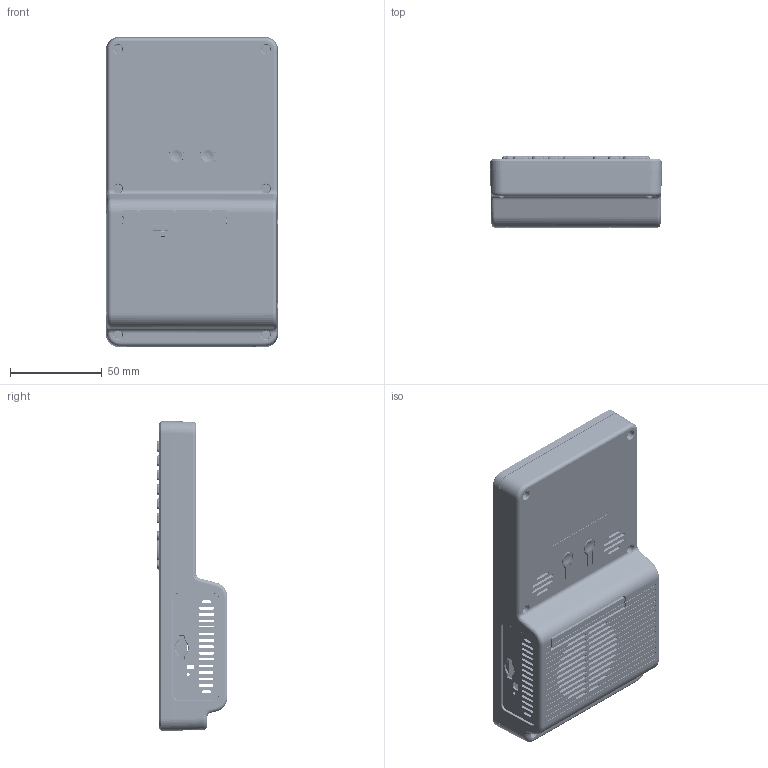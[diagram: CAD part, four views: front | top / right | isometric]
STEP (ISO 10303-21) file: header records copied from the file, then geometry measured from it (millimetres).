
FILE_DESCRIPTION((''),'2;1');
FILE_NAME('POCKETTERM35_ASM-20260629_ASM_1_ASM','2026-06-29T16:07:23',('xiaojisheng'),(''),'CREO PARAMETRIC BY PTC INC, 2021063','CREO PARAMETRIC BY PTC INC, 2021063','');
FILE_SCHEMA(('CONFIG_CONTROL_DESIGN','SHAPE_APPEARANCE_LAYERS_GROUPS'));
Products named in the file (30): POCKETTERM35_PANEL_1; GAMEPI35-MAIN-PCB_8; SMTSO-M2_5-4ET_1; RPI_HANDHELD_PC-PCBA_1_1; RPI_HANDHELD_PC-PCBA_1_2; RPI_HANDHELD_PC-PCBA_1_3; RPI_HANDHELD_PC-PCBA_1_4; RPI_HANDHELD_PC-PCBA_1_5; RPI_HANDHELD_PC-PCBA_1_6; RPI_HANDHELD_PC-PCBA_1_7; RPI_HANDHELD_PC-PCBA_1_8; RPI_HANDHELD_PC-PCBA_1_9; RPI_HANDHELD_PC-PCBA_1_10; RPI_HANDHELD_PC-PCBA_1_11; RPI_HANDHELD_PC-PCBA_1_12; RPI_HANDHELD_PC-PCBA_1_13; RPI_HANDHELD_PC-PCBA_1_14; RPI_HANDHELD_PC-PCBA_1_16; RPI_HANDHELD_PC-PCBA_1_ASM; 6X3_2XH300_2; HP2_0-2PIN-SMT-HORIZONTAL_1; 0_5MM-10PIN-F_SMT_1; GAMEPI35-MAIN-PCBA_ASM_9_ASM; POCKETTERM35-KEYBOARD_1_3; POCKETTERM35-KEYBOARD_1_1; SW-DTSM-63N-V-6X6X10MM_1; GAMEPI35-PCBA00_ASM_13_ASM; GAMEPI35-BACK_SHELL_70; GAMEPI35-BAFFLE_PI5_28; POCKETTERM35_ASM-20260629_ASM_1_ASM
Assembly tree (38 placements, depth 4):
  POCKETTERM35_ASM-20260629_ASM_1_ASM
    POCKETTERM35_PANEL_1
    GAMEPI35-MAIN-PCBA_ASM_9_ASM
      GAMEPI35-MAIN-PCB_8
      SMTSO-M2_5-4ET_1  x4
      RPI_HANDHELD_PC-PCBA_1_ASM
        RPI_HANDHELD_PC-PCBA_1_1
        RPI_HANDHELD_PC-PCBA_1_2
        RPI_HANDHELD_PC-PCBA_1_3
        RPI_HANDHELD_PC-PCBA_1_4
        RPI_HANDHELD_PC-PCBA_1_5
        RPI_HANDHELD_PC-PCBA_1_6
        RPI_HANDHELD_PC-PCBA_1_7
        RPI_HANDHELD_PC-PCBA_1_8
        RPI_HANDHELD_PC-PCBA_1_9
        RPI_HANDHELD_PC-PCBA_1_10
        RPI_HANDHELD_PC-PCBA_1_11
        RPI_HANDHELD_PC-PCBA_1_12
        RPI_HANDHELD_PC-PCBA_1_13
        RPI_HANDHELD_PC-PCBA_1_14
        RPI_HANDHELD_PC-PCBA_1_16
      6X3_2XH300_2  x4
      HP2_0-2PIN-SMT-HORIZONTAL_1
      0_5MM-10PIN-F_SMT_1  x2
    GAMEPI35-PCBA00_ASM_13_ASM
      POCKETTERM35-KEYBOARD_1_3
      POCKETTERM35-KEYBOARD_1_1
      SW-DTSM-63N-V-6X6X10MM_1  x2
      0_5MM-10PIN-F_SMT_1
    GAMEPI35-BACK_SHELL_70
    GAMEPI35-BAFFLE_PI5_28
Bounding box: 93.5 x 38.6 x 168.5 mm (x, y, z)
Volume: 151626.3 mm3; surface area: 151948.7 mm2
Topology: 34 solids, 65 shells, 8185 faces, 22662 edges, 14730 vertices
Faces by surface type: plane 4953, cylinder 2257, bspline 357, cone 348, torus 138, sphere 132
Entity records: 274497 total; most frequent: CARTESIAN_POINT 47434, ORIENTED_EDGE 35268, DIRECTION 34676, EDGE_CURVE 17634, VECTOR 11848, LINE 11848, VERTEX_POINT 11494, AXIS2_PLACEMENT_3D 11414
